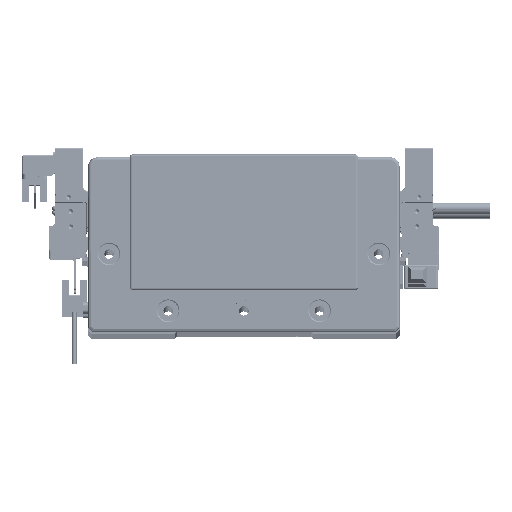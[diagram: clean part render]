
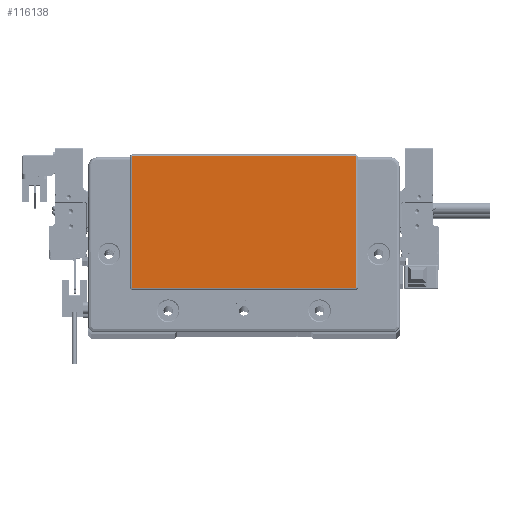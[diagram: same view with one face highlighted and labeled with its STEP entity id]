
A CAD part, top view. The second image highlights one B-rep face of the part: STEP entity #116138.
In plain terms, the highlighted planar face has unit normal (0, 0, 1) as drawn and (0, 0, -1) by its records, which use the part's own axes.
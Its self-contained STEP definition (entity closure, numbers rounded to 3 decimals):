
#1252 = ORIENTED_EDGE ( 'NONE', *, *, #22032, .T. ) ;
#1681 = DIRECTION ( 'NONE',  ( 0., 0., -1. ) ) ;
#4211 = CARTESIAN_POINT ( 'NONE',  ( 58.75, 45.8, -2. ) ) ;
#5069 = DIRECTION ( 'NONE',  ( -1., 0., 0. ) ) ;
#9257 = EDGE_CURVE ( 'NONE', #124984, #96500, #49886, .T. ) ;
#10975 = CARTESIAN_POINT ( 'NONE',  ( 59.25, 45.3, -2. ) ) ;
#12653 = VERTEX_POINT ( 'NONE', #18061 ) ;
#13997 = AXIS2_PLACEMENT_3D ( 'NONE', #25513, #45161, #85111 ) ;
#16467 = DIRECTION ( 'NONE',  ( 0., 0., -1. ) ) ;
#18061 = CARTESIAN_POINT ( 'NONE',  ( -59.25, -23.3, -2. ) ) ;
#18846 = DIRECTION ( 'NONE',  ( -1., 0., 0. ) ) ;
#19571 = DIRECTION ( 'NONE',  ( -1., 0., 0. ) ) ;
#20087 = CARTESIAN_POINT ( 'NONE',  ( 59.25, -23.3, -2. ) ) ;
#20759 = CIRCLE ( 'NONE', #57136, 0.5 ) ;
#22032 = EDGE_CURVE ( 'NONE', #23676, #124984, #33673, .T. ) ;
#22591 = CARTESIAN_POINT ( 'NONE',  ( 0., 0., -2. ) ) ;
#23676 = VERTEX_POINT ( 'NONE', #4211 ) ;
#25513 = CARTESIAN_POINT ( 'NONE',  ( -58.75, -23.3, -2. ) ) ;
#28381 = CARTESIAN_POINT ( 'NONE',  ( 58.75, -23.3, -2. ) ) ;
#29342 = ORIENTED_EDGE ( 'NONE', *, *, #118389, .T. ) ;
#30850 = PLANE ( 'NONE',  #63122 ) ;
#33673 = CIRCLE ( 'NONE', #74212, 0.5 ) ;
#36086 = LINE ( 'NONE', #73509, #72728 ) ;
#38417 = EDGE_CURVE ( 'NONE', #96500, #71700, #47369, .T. ) ;
#38558 = VERTEX_POINT ( 'NONE', #53619 ) ;
#41647 = CARTESIAN_POINT ( 'NONE',  ( -58.75, 45.8, -2. ) ) ;
#42075 = ORIENTED_EDGE ( 'NONE', *, *, #113958, .T. ) ;
#45161 = DIRECTION ( 'NONE',  ( 0., 0., -1. ) ) ;
#46089 = LINE ( 'NONE', #76488, #64966 ) ;
#47369 = CIRCLE ( 'NONE', #124370, 0.5 ) ;
#49886 = LINE ( 'NONE', #20087, #90689 ) ;
#53553 = EDGE_CURVE ( 'NONE', #56937, #23676, #123497, .T. ) ;
#53619 = CARTESIAN_POINT ( 'NONE',  ( -59.25, 45.3, -2. ) ) ;
#53863 = CARTESIAN_POINT ( 'NONE',  ( -58.75, 45.3, -2. ) ) ;
#56937 = VERTEX_POINT ( 'NONE', #41647 ) ;
#57136 = AXIS2_PLACEMENT_3D ( 'NONE', #53863, #16467, #5069 ) ;
#63122 = AXIS2_PLACEMENT_3D ( 'NONE', #22591, #1681, #79042 ) ;
#64966 = VECTOR ( 'NONE', #65106, 1000. ) ;
#65106 = DIRECTION ( 'NONE',  ( 0., 1., 0. ) ) ;
#65250 = DIRECTION ( 'NONE',  ( -1., 0., 0. ) ) ;
#67034 = DIRECTION ( 'NONE',  ( 0., 0., -1. ) ) ;
#67501 = EDGE_LOOP ( 'NONE', ( #77835, #108590, #82422, #42075, #109413, #29342, #111201, #1252 ) ) ;
#68647 = CIRCLE ( 'NONE', #13997, 0.5 ) ;
#71700 = VERTEX_POINT ( 'NONE', #72713 ) ;
#72713 = CARTESIAN_POINT ( 'NONE',  ( 58.75, -23.8, -2. ) ) ;
#72728 = VECTOR ( 'NONE', #65250, 1000. ) ;
#73509 = CARTESIAN_POINT ( 'NONE',  ( -58.75, -23.8, -2. ) ) ;
#74212 = AXIS2_PLACEMENT_3D ( 'NONE', #116038, #107742, #19571 ) ;
#76488 = CARTESIAN_POINT ( 'NONE',  ( -59.25, 45.3, -2. ) ) ;
#77108 = EDGE_CURVE ( 'NONE', #12653, #38558, #46089, .T. ) ;
#77835 = ORIENTED_EDGE ( 'NONE', *, *, #9257, .T. ) ;
#79042 = DIRECTION ( 'NONE',  ( -1., 0., 0. ) ) ;
#80263 = CARTESIAN_POINT ( 'NONE',  ( -58.75, -23.8, -2. ) ) ;
#80296 = FACE_OUTER_BOUND ( 'NONE', #67501, .T. ) ;
#82422 = ORIENTED_EDGE ( 'NONE', *, *, #105624, .T. ) ;
#85111 = DIRECTION ( 'NONE',  ( -1., 0., 0. ) ) ;
#85392 = CARTESIAN_POINT ( 'NONE',  ( 58.75, 45.8, -2. ) ) ;
#86629 = DIRECTION ( 'NONE',  ( 1., 0., 0. ) ) ;
#90689 = VECTOR ( 'NONE', #115907, 1000. ) ;
#92794 = CARTESIAN_POINT ( 'NONE',  ( 59.25, -23.3, -2. ) ) ;
#96500 = VERTEX_POINT ( 'NONE', #92794 ) ;
#105624 = EDGE_CURVE ( 'NONE', #71700, #123036, #36086, .T. ) ;
#107742 = DIRECTION ( 'NONE',  ( 0., 0., -1. ) ) ;
#108590 = ORIENTED_EDGE ( 'NONE', *, *, #38417, .T. ) ;
#109413 = ORIENTED_EDGE ( 'NONE', *, *, #77108, .T. ) ;
#111201 = ORIENTED_EDGE ( 'NONE', *, *, #53553, .T. ) ;
#113958 = EDGE_CURVE ( 'NONE', #123036, #12653, #68647, .T. ) ;
#115907 = DIRECTION ( 'NONE',  ( 0., -1., 0. ) ) ;
#116038 = CARTESIAN_POINT ( 'NONE',  ( 58.75, 45.3, -2. ) ) ;
#116138 = ADVANCED_FACE ( 'NONE', ( #80296 ), #30850, .T. ) ;
#118389 = EDGE_CURVE ( 'NONE', #38558, #56937, #20759, .T. ) ;
#123036 = VERTEX_POINT ( 'NONE', #80263 ) ;
#123497 = LINE ( 'NONE', #85392, #123678 ) ;
#123678 = VECTOR ( 'NONE', #86629, 1000. ) ;
#124370 = AXIS2_PLACEMENT_3D ( 'NONE', #28381, #67034, #18846 ) ;
#124984 = VERTEX_POINT ( 'NONE', #10975 ) ;
